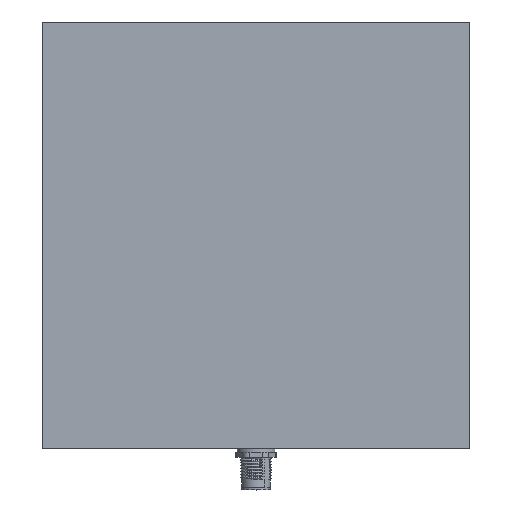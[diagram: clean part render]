
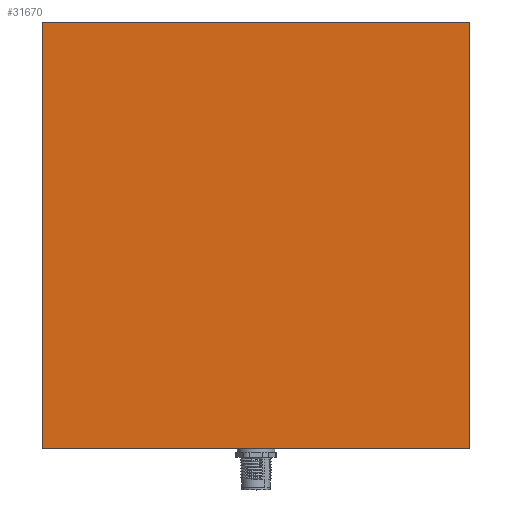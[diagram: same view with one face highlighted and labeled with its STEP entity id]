
A CAD part, top view. The second image highlights one B-rep face of the part: STEP entity #31670.
In plain terms, the highlighted planar face has unit normal (0, 0, 1).
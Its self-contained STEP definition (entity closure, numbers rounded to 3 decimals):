
#187 = EDGE_CURVE ( 'NONE', #253, #227, #2255, .T. ) ;
#226 = ORIENTED_EDGE ( 'NONE', *, *, #273, .T. ) ;
#227 = VERTEX_POINT ( 'NONE', #2183 ) ;
#232 = EDGE_CURVE ( 'NONE', #270, #254, #2340, .T. ) ;
#236 = ORIENTED_EDGE ( 'NONE', *, *, #187, .T. ) ;
#242 = EDGE_CURVE ( 'NONE', #254, #253, #5790, .T. ) ;
#253 = VERTEX_POINT ( 'NONE', #6229 ) ;
#254 = VERTEX_POINT ( 'NONE', #6078 ) ;
#262 = ORIENTED_EDGE ( 'NONE', *, *, #232, .T. ) ;
#270 = VERTEX_POINT ( 'NONE', #6712 ) ;
#273 = EDGE_CURVE ( 'NONE', #227, #270, #6720, .T. ) ;
#2183 = CARTESIAN_POINT ( 'NONE',  ( -84.534, 79.441, 0.924 ) ) ;
#2185 = DIRECTION ( 'NONE',  ( -1., 0., 0. ) ) ;
#2186 = VECTOR ( 'NONE', #2185, 1000. ) ;
#2187 = CARTESIAN_POINT ( 'NONE',  ( 78.466, 79.441, 0.924 ) ) ;
#2255 = LINE ( 'NONE', #2187, #2186 ) ;
#2337 = DIRECTION ( 'NONE',  ( 1., 0., 0. ) ) ;
#2338 = VECTOR ( 'NONE', #2337, 1000. ) ;
#2339 = CARTESIAN_POINT ( 'NONE',  ( 78.466, -83.559, 0.924 ) ) ;
#2340 = LINE ( 'NONE', #2339, #2338 ) ;
#5788 = DIRECTION ( 'NONE',  ( 0., 1., 0. ) ) ;
#5789 = CARTESIAN_POINT ( 'NONE',  ( 78.466, -83.559, 0.924 ) ) ;
#5790 = LINE ( 'NONE', #5789, #5799 ) ;
#5799 = VECTOR ( 'NONE', #5788, 1000. ) ;
#6078 = CARTESIAN_POINT ( 'NONE',  ( 78.466, -83.559, 0.924 ) ) ;
#6229 = CARTESIAN_POINT ( 'NONE',  ( 78.466, 79.441, 0.924 ) ) ;
#6709 = DIRECTION ( 'NONE',  ( 0., -1., 0. ) ) ;
#6710 = VECTOR ( 'NONE', #6709, 1000. ) ;
#6712 = CARTESIAN_POINT ( 'NONE',  ( -84.534, -83.559, 0.924 ) ) ;
#6719 = CARTESIAN_POINT ( 'NONE',  ( -84.534, -83.559, 0.924 ) ) ;
#6720 = LINE ( 'NONE', #6719, #6710 ) ;
#28647 = DIRECTION ( 'NONE',  ( 1., 0., 0. ) ) ;
#28649 = DIRECTION ( 'NONE',  ( 0., 0., 1. ) ) ;
#28650 = CARTESIAN_POINT ( 'NONE',  ( 78.466, 79.441, 0.924 ) ) ;
#28653 = AXIS2_PLACEMENT_3D ( 'NONE', #28650, #28649, #28647 ) ;
#28654 = PLANE ( 'NONE',  #28653 ) ;
#28655 = FACE_OUTER_BOUND ( 'NONE', #31620, .T. ) ;
#31620 = EDGE_LOOP ( 'NONE', ( #31646, #236, #226, #262 ) ) ;
#31646 = ORIENTED_EDGE ( 'NONE', *, *, #242, .T. ) ;
#31670 = ADVANCED_FACE ( 'NONE', ( #28655 ), #28654, .T. ) ;
